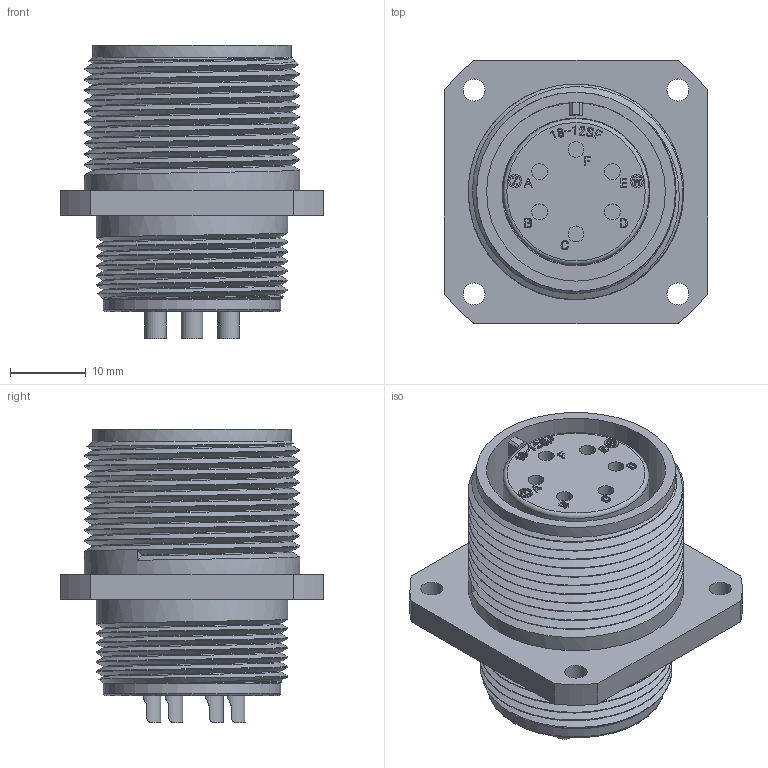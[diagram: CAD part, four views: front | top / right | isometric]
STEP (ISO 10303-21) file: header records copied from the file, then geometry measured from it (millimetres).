
FILE_DESCRIPTION (( 'STEP AP203' ), '1' );
FILE_NAME ('DMS3100A18-12S(D263).STEP', '2022-01-30T23:57:17', ( '' ), ( '' ), 'SwSTEP 2.0', 'SolidWorks 2018', '' );
FILE_SCHEMA (( 'CONFIG_CONTROL_DESIGN' ));
Length unit declared in the file: millimetre
Products named in the file (1): DMS3100A18-12S(D263)
Bounding box: 34.92 x 34.92 x 38.92 mm (x, y, z)
Volume: 16909.3 mm3; surface area: 10985.9 mm2
Topology: 1 solids, 1 shells, 703 faces, 1888 edges, 1259 vertices
Faces by surface type: plane 363, bspline 247, cylinder 89, cone 2, torus 2
Full cylindrical faces by diameter (mm): 1.4 x2, 1.8 x2, 2.11 x6, 2.93 x4, 17.45 x1, 19.33 x1, 19.59 x1, 21.08 x1, 23.5 x1, 23.68 x1, 25.36 x6, 26.35 x1, 28.53 x10
Entity records: 30420 total; most frequent: CARTESIAN_POINT 15054, ORIENTED_EDGE 3602, DIRECTION 2248, EDGE_CURVE 1801, VERTEX_POINT 1215, VECTOR 1116, LINE 1116, EDGE_LOOP 794
